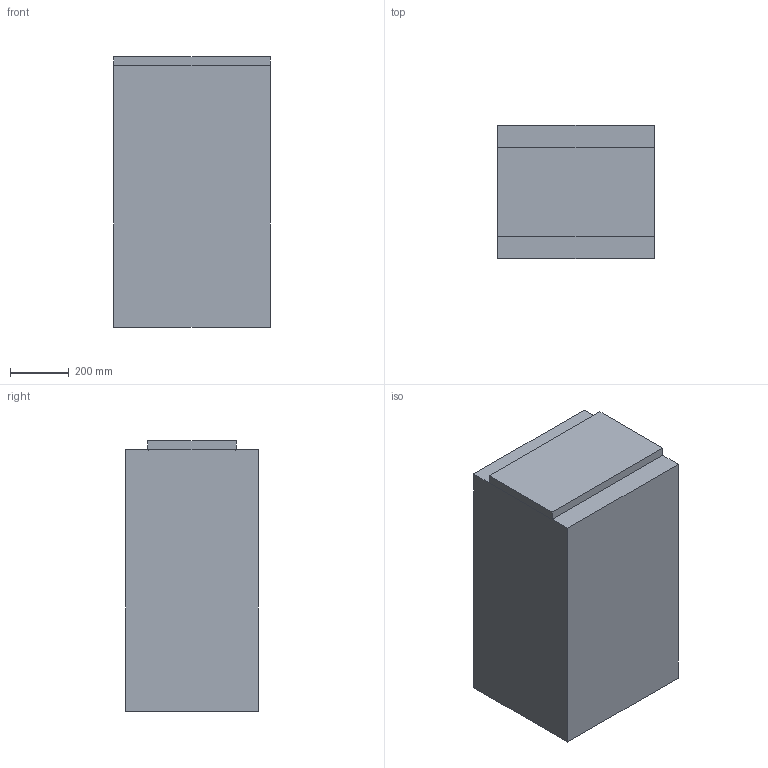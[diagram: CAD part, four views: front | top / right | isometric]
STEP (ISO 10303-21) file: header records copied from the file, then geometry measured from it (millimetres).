
FILE_DESCRIPTION(/* description */ (''),/* implementation_level */ '2;1');
FILE_NAME(/* name */ 'ModdedChamberTapered.step',/* time_stamp */ '2024-09-30T15:26:22-07:00',/* author */ (''),/* organization */ (''),/* preprocessor_version */ 'ST-DEVELOPER v20',/* originating_system */ 'Autodesk Translation Framework v13.20.0.188',/* authorisation */ '');
FILE_SCHEMA (('AUTOMOTIVE_DESIGN { 1 0 10303 214 3 1 1 }'));
Products named in the file (1): 30DegTaper
Bounding box: 532.35 x 451.85 x 920 mm (x, y, z)
Volume: 217397457 mm3; surface area: 3938514.8 mm2
Topology: 17 solids, 17 shells, 4510 faces, 13676 edges, 8928 vertices
Faces by surface type: plane 4510
Entity records: 153321 total; most frequent: ORIENTED_EDGE 27352, CARTESIAN_POINT 27115, DIRECTION 22698, LINE 13676, VECTOR 13676, EDGE_CURVE 13676, VERTEX_POINT 8928, EDGE_LOOP 6292
